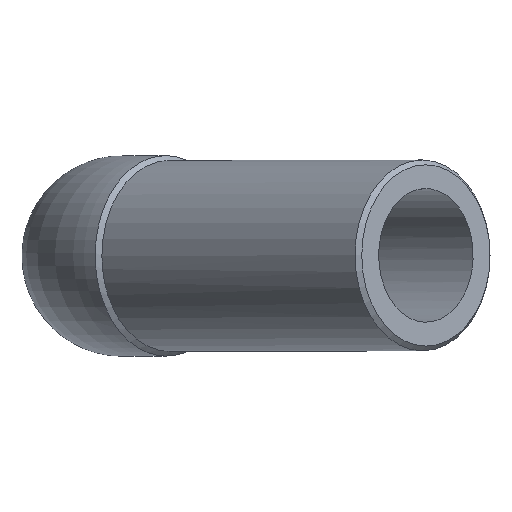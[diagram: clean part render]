
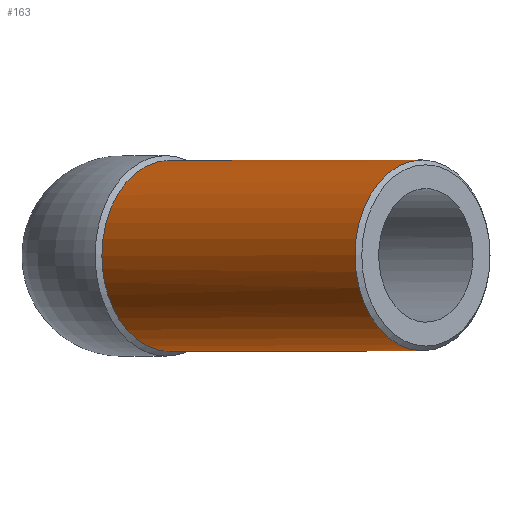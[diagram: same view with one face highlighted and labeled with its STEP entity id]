
A CAD part, top view. The second image highlights one B-rep face of the part: STEP entity #163.
In plain terms, the highlighted cylindrical face has radius 10 mm (diameter 20 mm), a full revolution.
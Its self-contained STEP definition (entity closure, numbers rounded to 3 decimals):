
#25=CYLINDRICAL_SURFACE('',#189,10.);
#37=ORIENTED_EDGE('',*,*,#71,.T.);
#38=ORIENTED_EDGE('',*,*,#69,.F.);
#69=EDGE_CURVE('',#86,#86,#102,.T.);
#71=EDGE_CURVE('',#88,#88,#103,.T.);
#86=VERTEX_POINT('',#261);
#88=VERTEX_POINT('',#284);
#102=CIRCLE('',#188,10.);
#103=CIRCLE('',#190,10.);
#114=EDGE_LOOP('',(#37));
#115=EDGE_LOOP('',(#38));
#137=FACE_BOUND('',#114,.T.);
#138=FACE_BOUND('',#115,.T.);
#163=ADVANCED_FACE('',(#137,#138),#25,.T.);
#188=AXIS2_PLACEMENT_3D('',#260,#214,#215);
#189=AXIS2_PLACEMENT_3D('',#282,#216,#217);
#190=AXIS2_PLACEMENT_3D('',#283,#218,#219);
#214=DIRECTION('',(-0.707,0.,-0.707));
#215=DIRECTION('',(-0.707,0.,0.707));
#216=DIRECTION('',(0.707,0.,0.707));
#217=DIRECTION('',(-0.707,0.,0.707));
#218=DIRECTION('',(-0.707,0.,-0.707));
#219=DIRECTION('',(-0.707,0.,0.707));
#260=CARTESIAN_POINT('',(4.95,0.,4.95));
#261=CARTESIAN_POINT('',(-2.121,0.,12.021));
#282=CARTESIAN_POINT('',(31.82,0.,31.82));
#283=CARTESIAN_POINT('',(31.466,0.,31.466));
#284=CARTESIAN_POINT('',(24.395,0.,38.537));
